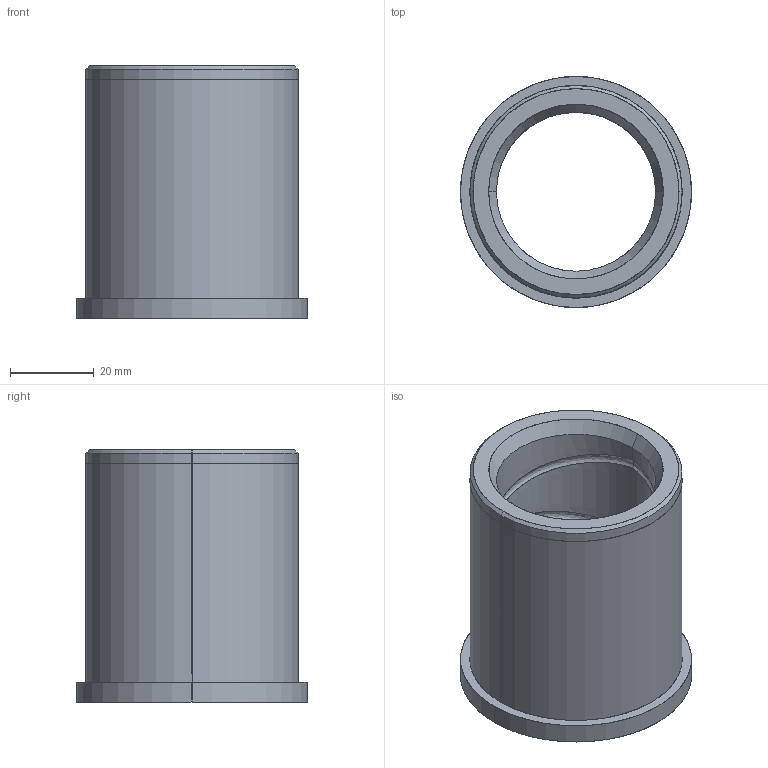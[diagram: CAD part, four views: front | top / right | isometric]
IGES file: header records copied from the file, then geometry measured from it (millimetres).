
Start section: SolidWorks IGES file using analytic representation for surfaces
Global section: file name: D:\Current\W2\SBF 12-23.igs; native system: SolidWorks 2017; preprocessor: SolidWorks 2017; author: Ravi Kalvai; date: 230530.114832; units: inch
Bounding box: 55.3 x 55.3 x 60.33 mm (x, y, z)
Surface area: 19268.1 mm2 (no closed solid volume)
Topology: 0 solids, 0 shells, 32 faces, 1252 edges, 1252 vertices
Faces by surface type: revolution 20, bspline 12
